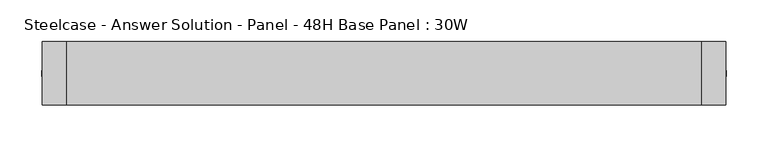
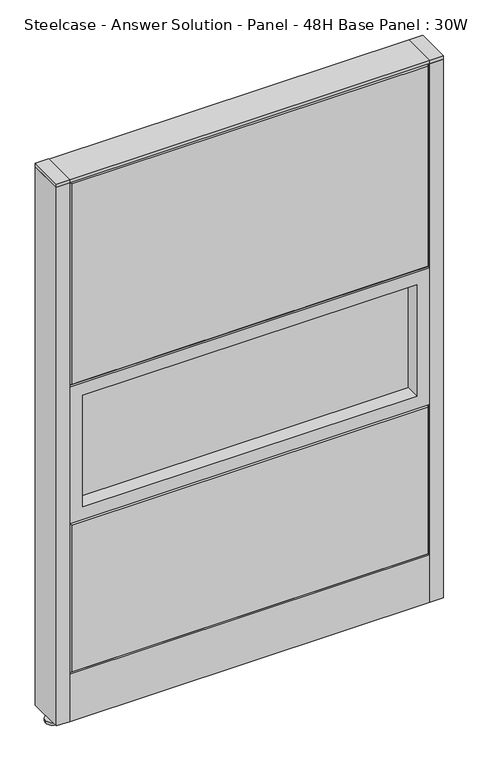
"""IFC4 building model written with IfcOpenShell, lengths in millimetres: furniture geometry, Steelcase - Answer Solution - Panel - 48H Base Panel : 30W."""

from ifc_helpers import new_model, si_unit, point, frame, frame_2d, origin, place, context, project, spatial, polyline, circle_curve, trimmed, segment, composite_curve, outline, extrude, faceted_brep, source, transform, mapped, element, save


def steelcase_answer_solution_panel_48h_base_panel_30w_63fb2916(model_context):
    return source(origin(), model_context, "Body", "SolidModel", [
        extrude(outline(composite_curve([segment(trimmed(circle_curve(frame_2d((395.224, 0.0320214)), 5.08), [point((400.304, 0.0320214))], [point((390.144, 0.0320214))], False, "CARTESIAN"), True, "CONTINUOUS"), segment(trimmed(circle_curve(frame_2d((395.224, 0.0320214)), 5.08), [point((390.144, 0.0320214))], [point((400.304, 0.0320214))], False, "CARTESIAN"), True, "CONTINUOUS")], self_intersect=False)), frame((0.0, 0.0, 5.0799671), z_axis=(0.0, 0.0, 1.0), x_axis=(1.0, 0.0, 0.0)), (0.0, 0.0, 1.0), 10.414),
        extrude(outline(composite_curve([segment(trimmed(circle_curve(frame_2d((395.224, 0.0320214)), 15.24), [point((410.464, 0.0320214))], [point((379.984, 0.0320214))], False, "CARTESIAN"), True, "CONTINUOUS"), segment(trimmed(circle_curve(frame_2d((395.224, 0.0320214)), 15.24), [point((379.984, 0.0320214))], [point((410.464, 0.0320214))], False, "CARTESIAN"), True, "CONTINUOUS")], self_intersect=False)), frame((0.0, 0.0, -3.29e-05), z_axis=(0.0, 0.0, 1.0), x_axis=(1.0, 0.0, 0.0)), (0.0, 0.0, 1.0), 5.08),
        extrude(outline(polyline([(409.575, 38.1320408), (409.575, -38.0679592), (381.0, -38.0679592), (381.0, 38.1320408), (409.575, 38.1320408)])), frame((0.0, 0.0, 1218.2348), z_axis=(0.0, 0.0, 1.0), x_axis=(1.0, 0.0, 0.0)), (0.0, 0.0, 1.0), 7.3151671),
        extrude(outline(polyline([(409.575, 38.1320408), (409.575, -38.0679592), (381.0, -38.0679592), (381.0, 38.1320408), (409.575, 38.1320408)])), frame((0.0, 0.0, 15.4939671), z_axis=(0.0, 0.0, 1.0), x_axis=(1.0, 0.0, 0.0)), (0.0, 0.0, 1.0), 1202.7408329),
        extrude(outline(composite_curve([segment(trimmed(circle_curve(frame_2d((-395.224, 0.0320214)), 5.08), [point((-400.304, 0.0320214))], [point((-390.144, 0.0320214))], False, "CARTESIAN"), True, "CONTINUOUS"), segment(trimmed(circle_curve(frame_2d((-395.224, 0.0320214)), 5.08), [point((-390.144, 0.0320214))], [point((-400.304, 0.0320214))], False, "CARTESIAN"), True, "CONTINUOUS")], self_intersect=False)), frame((0.0, 0.0, 5.0799671), z_axis=(0.0, 0.0, 1.0), x_axis=(1.0, 0.0, 0.0)), (0.0, 0.0, 1.0), 10.414),
        extrude(outline(composite_curve([segment(trimmed(circle_curve(frame_2d((-395.224, 0.0320214)), 15.24), [point((-410.464, 0.0320214))], [point((-379.984, 0.0320214))], False, "CARTESIAN"), True, "CONTINUOUS"), segment(trimmed(circle_curve(frame_2d((-395.224, 0.0320214)), 15.24), [point((-379.984, 0.0320214))], [point((-410.464, 0.0320214))], False, "CARTESIAN"), True, "CONTINUOUS")], self_intersect=False)), frame((0.0, 0.0, -3.29e-05), z_axis=(0.0, 0.0, 1.0), x_axis=(1.0, 0.0, 0.0)), (0.0, 0.0, 1.0), 5.08),
        extrude(outline(polyline([(-409.575, 38.1320408), (-381.0, 38.1320408), (-381.0, -38.0679592), (-409.575, -38.0679592), (-409.575, 38.1320408)])), frame((0.0, 0.0, 1218.2348), z_axis=(0.0, 0.0, 1.0), x_axis=(1.0, 0.0, 0.0)), (0.0, 0.0, 1.0), 7.3151671),
        extrude(outline(polyline([(-409.575, 38.1320408), (-381.0, 38.1320408), (-381.0, -38.0679592), (-409.575, -38.0679592), (-409.575, 38.1320408)])), frame((0.0, 0.0, 15.4939671), z_axis=(0.0, 0.0, 1.0), x_axis=(1.0, 0.0, 0.0)), (0.0, 0.0, 1.0), 1202.7408329),
        extrude(outline(polyline([(-353.06, 6.346049), (353.06, 6.346049), (353.06, -6.353951), (-353.06, -6.353951), (-353.06, 6.346049)])), frame((0.0, 0.0, 485.14), z_axis=(0.0, 0.0, 1.0), x_axis=(1.0, 0.0, 0.0)), (0.0, 0.0, 1.0), 248.92),
        extrude(outline(polyline([(762.0, -381.0), (457.2, -381.0), (457.2, 381.0), (762.0, 381.0), (762.0, -381.0)]), holes=[polyline([(734.06, -353.06), (734.06, 353.06), (485.14, 353.06), (485.14, -353.06), (734.06, -353.06)])]), frame((0.0, -38.103951, 0.0), z_axis=(0.0, 1.0, 0.0), x_axis=(0.0, 0.0, 1.0)), (0.0, 0.0, 1.0), 76.2),
        faceted_brep([(-376.174, 38.1635011, 1214.374), (376.174, 38.1635011, 1214.374), (376.174, 38.1635011, 766.826), (-376.174, 38.1635011, 766.826), (-381.0, 33.3375011, 1219.2), (-381.0, 33.3375011, 762.0), (381.0, 33.3375011, 762.0), (381.0, 33.3375011, 1219.2)], [[[0, 1, 2, 3]], [[4, 5, 6, 7]], [[4, 7, 1, 0]], [[7, 6, 2, 1]], [[6, 5, 3, 2]], [[5, 4, 0, 3]]]),
        faceted_brep([(-376.174, 38.1635011, 452.374), (376.174, 38.1635011, 452.374), (376.174, 38.1635011, 125.476), (-376.174, 38.1635011, 125.476), (-381.0, 33.3375011, 457.2), (-381.0, 33.3375011, 120.65), (381.0, 33.3375011, 120.65), (381.0, 33.3375011, 457.2)], [[[0, 1, 2, 3]], [[4, 5, 6, 7]], [[4, 7, 1, 0]], [[7, 6, 2, 1]], [[6, 5, 3, 2]], [[5, 4, 0, 3]]]),
        extrude(outline(polyline([(353.06, -6.346049), (-353.06, -6.346049), (-353.06, 6.353951), (353.06, 6.353951), (353.06, -6.346049)])), frame((0.0, 0.0, 485.14), z_axis=(0.0, 0.0, 1.0), x_axis=(1.0, 0.0, 0.0)), (0.0, 0.0, 1.0), 248.92),
        extrude(outline(polyline([(762.0, 381.0), (762.0, -381.0), (457.2, -381.0), (457.2, 381.0), (762.0, 381.0)]), holes=[polyline([(734.06, 353.06), (485.14, 353.06), (485.14, -353.06), (734.06, -353.06), (734.06, 353.06)])]), frame((0.0, -38.096049, 0.0), z_axis=(0.0, 1.0, 0.0), x_axis=(0.0, 0.0, 1.0)), (0.0, 0.0, 1.0), 76.2),
        faceted_brep([(376.174, -38.1635011, 1214.374), (-376.174, -38.1635011, 1214.374), (-376.174, -38.1635011, 766.826), (376.174, -38.1635011, 766.826), (381.0, -33.3375011, 1219.2), (381.0, -33.3375011, 762.0), (-381.0, -33.3375011, 762.0), (-381.0, -33.3375011, 1219.2)], [[[0, 1, 2, 3]], [[4, 5, 6, 7]], [[4, 7, 1, 0]], [[7, 6, 2, 1]], [[6, 5, 3, 2]], [[5, 4, 0, 3]]]),
        faceted_brep([(376.174, -38.1635011, 452.374), (-376.174, -38.1635011, 452.374), (-376.174, -38.1635011, 125.476), (376.174, -38.1635011, 125.476), (381.0, -33.3375011, 457.2), (381.0, -33.3375011, 120.65), (-381.0, -33.3375011, 120.65), (-381.0, -33.3375011, 457.2)], [[[0, 1, 2, 3]], [[4, 5, 6, 7]], [[4, 7, 1, 0]], [[7, 6, 2, 1]], [[6, 5, 3, 2]], [[5, 4, 0, 3]]]),
        extrude(outline(polyline([(381.0, 38.1000194), (381.0, -38.1000194), (-381.0, -38.1000194), (-381.0, 38.1000194), (381.0, 38.1000194)])), frame((0.0, 0.0, 1219.2), z_axis=(0.0, 0.0, 1.0), x_axis=(1.0, 0.0, 0.0)), (0.0, 0.0, 1.0), 6.35),
        extrude(outline(polyline([(25.4000011, 119.8575157), (25.4000011, 120.65), (38.1000194, 120.65), (38.1000194, 15.494), (37.3075215, 15.494), (37.3075215, 119.8575157), (25.4000011, 119.8575157)])), frame((-381.0, 0.0, 0.0), z_axis=(1.0, 0.0, 0.0), x_axis=(0.0, 1.0, 0.0)), (0.0, 0.0, 1.0), 762.0),
        extrude(outline(polyline([(-25.4000011, 119.8575157), (-37.3075215, 119.8575157), (-37.3075215, 15.494), (-38.1000194, 15.494), (-38.1000194, 120.65), (-25.4000011, 120.65), (-25.4000011, 119.8575157)])), frame((-381.0, 0.0, 0.0), z_axis=(1.0, 0.0, 0.0), x_axis=(0.0, 1.0, 0.0)), (0.0, 0.0, 1.0), 762.0),
    ])


if __name__ == "__main__":
    model = new_model("IFC4")
    model_context = context("Model", 3, world=origin())
    ifc_project = project(units=[si_unit("LENGTHUNIT", "METRE", prefix="MILLI")], contexts=[model_context])
    site = spatial("IfcSite", under=ifc_project)
    building = spatial("IfcBuilding", under=site)
    placement = place(None, origin())
    steelcase_answer_solution_panel_48h_base_panel_30w_shape = steelcase_answer_solution_panel_48h_base_panel_30w_63fb2916(model_context)
    element("IfcFurniture", 1, ObjectType="Steelcase - Answer Solution - Panel - 48H Base Panel : 30W", at=placement, inside=building, context=model_context, shape_type="MappedRepresentation", body=[
        mapped(steelcase_answer_solution_panel_48h_base_panel_30w_shape, transform((0.0, 0.0, 0.0), x_axis=(1.0, 0.0, 0.0), y_axis=(0.0, 1.0, 0.0), z_axis=(0.0, 0.0, 1.0))),
    ])
    save(model, "model.ifc")
